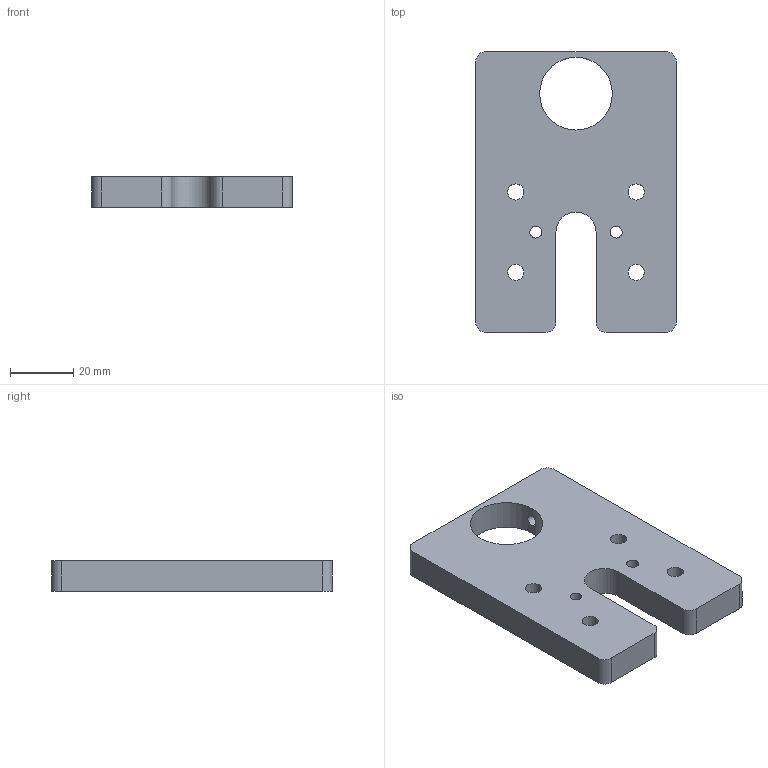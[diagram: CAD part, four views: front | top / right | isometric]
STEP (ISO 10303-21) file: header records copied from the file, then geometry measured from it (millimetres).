
FILE_DESCRIPTION (( 'STEP AP203' ), '1' );
FILE_NAME ('AFSB-646-M-RAL050.STEP', '2018-09-10T12:19:21', ( 'admin' ), ( '' ), 'SwSTEP 2.0', 'SolidWorks 2018', '' );
FILE_SCHEMA (( 'CONFIG_CONTROL_DESIGN' ));
Length unit declared in the file: inch
Products named in the file (1): AFSB-646-M-RAL050
Bounding box: 63.5 x 88.9 x 9.53 mm (x, y, z)
Volume: 43828.9 mm3; surface area: 14610 mm2
Topology: 1 solids, 1 shells, 35 faces, 97 edges, 64 vertices
Faces by surface type: cylinder 25, plane 10
Entity records: 1304 total; most frequent: CARTESIAN_POINT 251, DIRECTION 215, ORIENTED_EDGE 194, EDGE_CURVE 97, AXIS2_PLACEMENT_3D 84, VERTEX_POINT 64, EDGE_LOOP 51, CIRCLE 48
